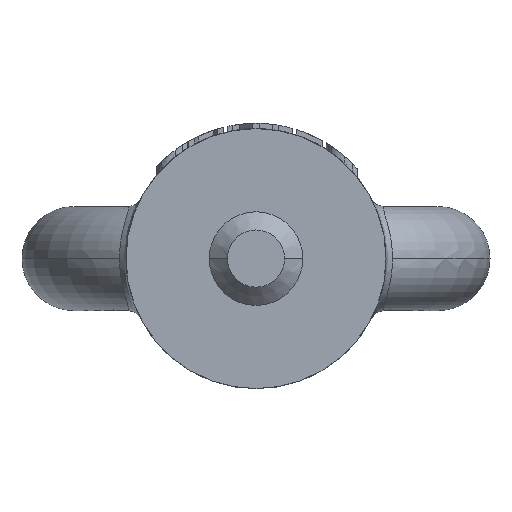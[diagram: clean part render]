
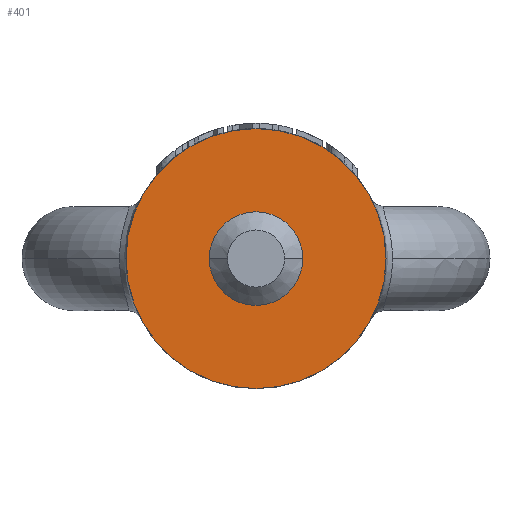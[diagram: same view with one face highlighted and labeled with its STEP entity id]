
A CAD part, front view. The second image highlights one B-rep face of the part: STEP entity #401.
In plain terms, the highlighted planar face has unit normal (0, -1, 0).
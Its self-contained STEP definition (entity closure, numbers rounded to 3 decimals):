
#401=ADVANCED_FACE('',(#807,#808),#809,.F.);
#807=FACE_OUTER_BOUND('',#1808,.T.);
#808=FACE_BOUND('',#1809,.T.);
#809=PLANE('',#1810);
#1808=EDGE_LOOP('',(#2836,#2837));
#1809=EDGE_LOOP('',(#2838,#2839));
#1810=AXIS2_PLACEMENT_3D('',#2840,#2841,#2842);
#2836=ORIENTED_EDGE('',*,*,#2891,.T.);
#2837=ORIENTED_EDGE('',*,*,#2968,.T.);
#2838=ORIENTED_EDGE('',*,*,#2915,.T.);
#2839=ORIENTED_EDGE('',*,*,#2929,.T.);
#2840=CARTESIAN_POINT('',(0.,-45.0,0.0));
#2841=DIRECTION('',(0.0,1.0,0.0));
#2842=DIRECTION('',(1.0,0.0,-0.0));
#2891=EDGE_CURVE('',#3373,#3370,#3374,.T.);
#2915=EDGE_CURVE('',#3410,#3414,#3416,.T.);
#2929=EDGE_CURVE('',#3414,#3410,#3432,.T.);
#2968=EDGE_CURVE('',#3370,#3373,#3478,.T.);
#3370=VERTEX_POINT('',#4185);
#3373=VERTEX_POINT('',#4189);
#3374=CIRCLE('',#4190,25.0);
#3410=VERTEX_POINT('',#4257);
#3414=VERTEX_POINT('',#4262);
#3416=CIRCLE('',#4265,7.225);
#3432=CIRCLE('',#4285,7.225);
#3478=CIRCLE('',#4507,25.0);
#4185=CARTESIAN_POINT('',(25.0,-45.0,0.));
#4189=CARTESIAN_POINT('',(-25.0,-45.0,0.));
#4190=AXIS2_PLACEMENT_3D('',#5750,#5751,#5752);
#4257=CARTESIAN_POINT('',(-7.225,-45.0,0.0));
#4262=CARTESIAN_POINT('',(7.225,-45.0,0.));
#4265=AXIS2_PLACEMENT_3D('',#5788,#5789,#5790);
#4285=AXIS2_PLACEMENT_3D('',#5807,#5808,#5809);
#4507=AXIS2_PLACEMENT_3D('',#5846,#5847,#5848);
#5750=CARTESIAN_POINT('',(0.0,-45.0,0.0));
#5751=DIRECTION('',(0.0,-1.0,0.0));
#5752=DIRECTION('',(1.0,0.0,0.0));
#5788=CARTESIAN_POINT('',(0.0,-45.0,0.0));
#5789=DIRECTION('',(0.0,1.0,0.0));
#5790=DIRECTION('',(-1.0,0.0,0.0));
#5807=CARTESIAN_POINT('',(0.0,-45.0,0.0));
#5808=DIRECTION('',(0.0,1.0,0.0));
#5809=DIRECTION('',(-1.0,0.0,0.0));
#5846=CARTESIAN_POINT('',(0.0,-45.0,0.0));
#5847=DIRECTION('',(0.0,-1.0,0.0));
#5848=DIRECTION('',(1.0,0.0,0.0));
